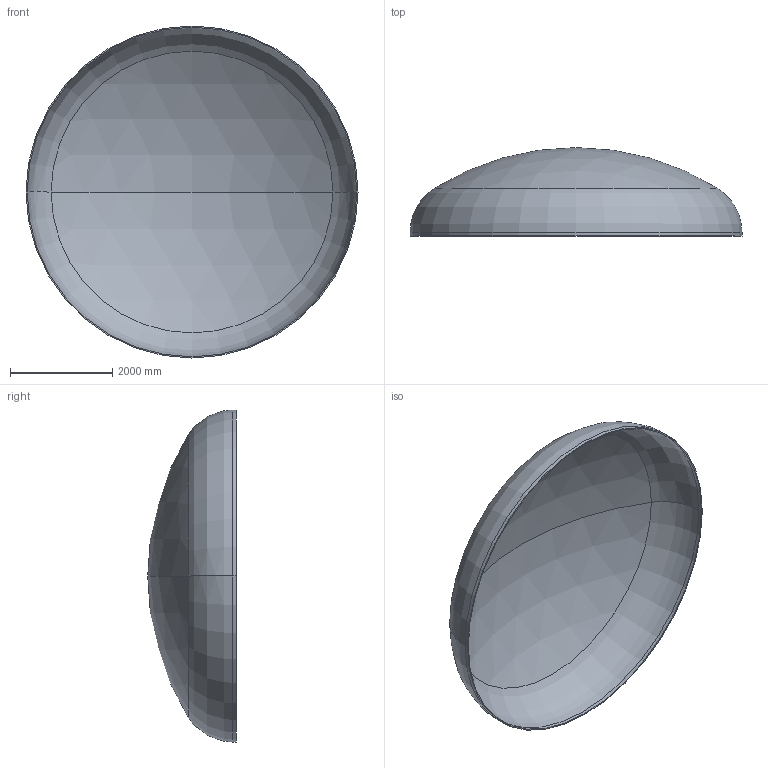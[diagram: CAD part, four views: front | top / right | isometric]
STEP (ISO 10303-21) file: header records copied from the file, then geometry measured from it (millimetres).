
FILE_DESCRIPTION (( 'STEP AP203' ), '1' );
FILE_NAME ('DIN 28013 Korbbogenform_-_Boden DIN 28013 - 6500 x 70 - I - s=22.step', '2016-07-04T10:40:33', ( '' ), ( '' ), 'SwSTEP 2.0', 'SolidWorks 2013', '' );
FILE_SCHEMA (( 'CONFIG_CONTROL_DESIGN' ));
Length unit declared in the file: millimetre
Products named in the file (1): DIN 28013 Korbbogenform_-_Boden DIN 28013 - 6500 x 70 - I - s=22
Bounding box: 6500 x 1731.66 x 6500 mm (x, y, z)
Volume: 1037771987.6 mm3; surface area: 94791610.7 mm2
Topology: 1 solids, 1 shells, 13 faces, 24 edges, 14 vertices
Faces by surface type: torus 4, cylinder 4, sphere 4, plane 1
Entity records: 407 total; most frequent: DIRECTION 72, CARTESIAN_POINT 52, ORIENTED_EDGE 48, AXIS2_PLACEMENT_3D 34, EDGE_CURVE 24, CIRCLE 20, VERTEX_POINT 14, EDGE_LOOP 14
